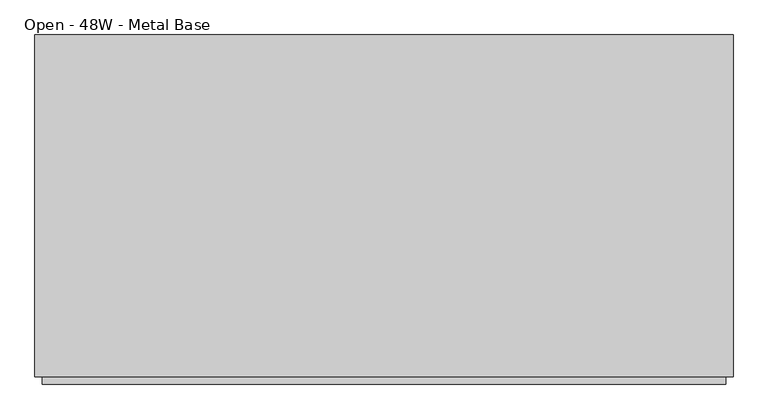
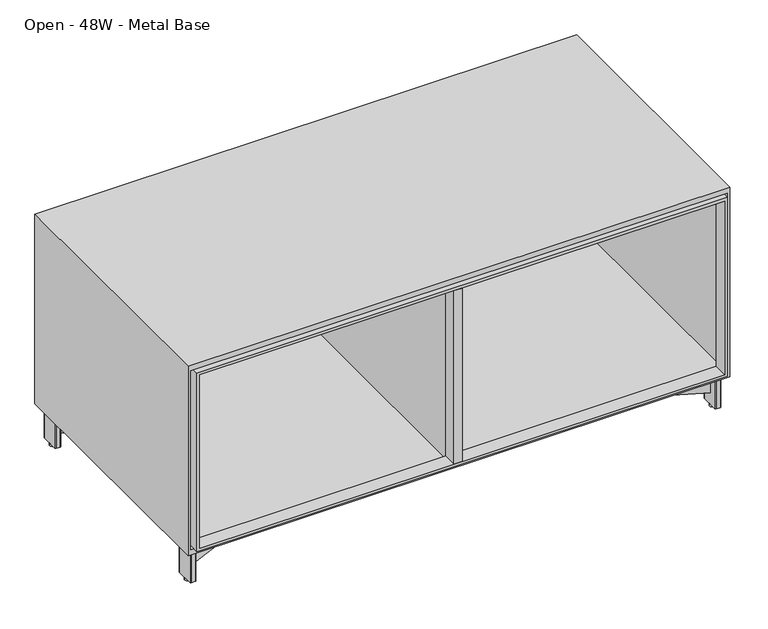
"""IFC4 building model written with IfcOpenShell, lengths in millimetres: furniture geometry, Steelcase Coalesse - Exponents - Storage - Credenza - 21H : Open - 48W - Metal Base."""

from ifc_helpers import new_model, si_unit, point, frame, frame_2d, origin, origin_with_axes, place, context, project, spatial, polyline, circle_curve, trimmed, segment, composite_curve, outline, extrude, faceted_brep, source, transform, mapped, element, save


def open_48w_metal_base_6e8538a0(model_context):
    return source(origin(), model_context, "Body", "SolidModel", [
        faceted_brep([(6.35, 31.75, 520.7), (6.35, 31.75, 95.25), (6.35, 622.3, 95.25), (6.35, 622.3, 520.7), (1212.85, 622.3, 95.25), (1212.85, 622.3, 520.7), (1212.85, 31.75, 95.25), (1212.85, 31.75, 520.7), (0.0, 31.75, 82.55), (1219.2, 31.75, 82.55), (1219.2, 31.75, 533.4), (0.0, 31.75, 533.4), (1219.2, 628.65, 82.55), (1219.2, 628.65, 533.4), (0.0, 628.65, 82.55), (0.0, 628.65, 533.4)], [[[0, 1, 2, 3]], [[3, 2, 4, 5]], [[5, 4, 6, 7]], [[8, 9, 10, 11], [7, 6, 1, 0]], [[10, 9, 12, 13]], [[13, 12, 14, 15]], [[15, 14, 8, 11]], [[7, 0, 3, 5]], [[10, 13, 15, 11]], [[1, 6, 4, 2]], [[12, 9, 8, 14]]]),
        extrude(outline(composite_curve([segment(polyline([(1195.5506426, 615.95), (1204.722, 615.95)]), True, "CONTINUOUS"), segment(trimmed(circle_curve(frame_2d((1204.722, 614.172)), 1.778), [point((1204.722, 615.95))], [point((1206.5, 614.172))], False, "CARTESIAN"), True, "CONTINUOUS"), segment(polyline([(1206.5, 614.172), (1206.5, 572.9986)]), True, "CONTINUOUS"), segment(trimmed(circle_curve(frame_2d((1204.722, 572.9986)), 1.778), [point((1206.5, 572.9986))], [point((1204.722, 571.2206))], False, "CARTESIAN"), True, "CONTINUOUS"), segment(polyline([(1204.722, 571.2206), (1195.5948916, 571.2206)]), True, "CONTINUOUS"), segment(trimmed(circle_curve(frame_2d((1195.5948916, 573.0154916)), 1.7948916), [point((1195.5948916, 571.2206))], [point((1193.8, 573.0154916))], False, "CARTESIAN"), True, "CONTINUOUS"), segment(polyline([(1193.8, 573.0154916), (1193.8, 614.1993574)]), True, "CONTINUOUS"), segment(trimmed(circle_curve(frame_2d((1195.5506426, 614.1993574)), 1.7506426), [point((1193.8, 614.1993574))], [point((1195.5506426, 615.95))], False, "CARTESIAN"), True, "CONTINUOUS")], self_intersect=False)), frame((0.0, 0.0, 6.35), z_axis=(0.0, 0.0, 1.0), x_axis=(1.0, 0.0, 0.0)), (0.0, 0.0, 1.0), 73.4568),
        extrude(outline(composite_curve([segment(polyline([(1195.5506426, 88.9), (1204.722, 88.9)]), True, "CONTINUOUS"), segment(trimmed(circle_curve(frame_2d((1204.722, 87.122)), 1.778), [point((1204.722, 88.9))], [point((1206.5, 87.122))], False, "CARTESIAN"), True, "CONTINUOUS"), segment(polyline([(1206.5, 87.122), (1206.5, 45.9486)]), True, "CONTINUOUS"), segment(trimmed(circle_curve(frame_2d((1204.722, 45.9486)), 1.778), [point((1206.5, 45.9486))], [point((1204.722, 44.1706))], False, "CARTESIAN"), True, "CONTINUOUS"), segment(polyline([(1204.722, 44.1706), (1195.5948916, 44.1706)]), True, "CONTINUOUS"), segment(trimmed(circle_curve(frame_2d((1195.5948916, 45.9654916)), 1.7948916), [point((1195.5948916, 44.1706))], [point((1193.8, 45.9654916))], False, "CARTESIAN"), True, "CONTINUOUS"), segment(polyline([(1193.8, 45.9654916), (1193.8, 87.1493574)]), True, "CONTINUOUS"), segment(trimmed(circle_curve(frame_2d((1195.5506426, 87.1493574)), 1.7506426), [point((1193.8, 87.1493574))], [point((1195.5506426, 88.9))], False, "CARTESIAN"), True, "CONTINUOUS")], self_intersect=False)), frame((0.0, 0.0, 6.35), z_axis=(0.0, 0.0, 1.0), x_axis=(1.0, 0.0, 0.0)), (0.0, 0.0, 1.0), 73.4568),
        extrude(outline(composite_curve([segment(trimmed(circle_curve(frame_2d((1200.15, 593.5667033)), 6.35), [point((1200.15, 599.9167033))], [point((1200.15, 587.2167033))], False, "CARTESIAN"), True, "CONTINUOUS"), segment(trimmed(circle_curve(frame_2d((1200.15, 593.5667033)), 6.35), [point((1200.15, 587.2167033))], [point((1200.15, 599.9167033))], False, "CARTESIAN"), True, "CONTINUOUS")], self_intersect=False)), origin_with_axes(), (0.0, 0.0, 1.0), 6.35),
        extrude(outline(composite_curve([segment(trimmed(circle_curve(frame_2d((1200.15, 66.7867854)), 6.35), [point((1200.15, 73.1367854))], [point((1200.15, 60.4367854))], False, "CARTESIAN"), True, "CONTINUOUS"), segment(trimmed(circle_curve(frame_2d((1200.15, 66.7867854)), 6.35), [point((1200.15, 60.4367854))], [point((1200.15, 73.1367854))], False, "CARTESIAN"), True, "CONTINUOUS")], self_intersect=False)), origin_with_axes(), (0.0, 0.0, 1.0), 6.35),
        extrude(outline(polyline([(520.7, 1206.5), (520.7, 12.7), (95.25, 12.7), (95.25, 1206.5), (520.7, 1206.5)]), holes=[polyline([(514.35, 1200.15), (101.6, 1200.15), (101.6, 19.05), (514.35, 19.05), (514.35, 1200.15)])]), frame((0.0, 19.05, 0.0), z_axis=(0.0, 1.0, 0.0), x_axis=(0.0, 0.0, 1.0)), (0.0, 0.0, 1.0), 31.75),
        extrude(outline(polyline([(610.8800308, 345.280854), (1193.8, 598.591626), (1193.8, 577.8206777), (623.9741031, 330.2), (1193.8, 82.5793223), (1193.8, 61.808374), (611.177267, 314.9899805), (617.6101738, 329.7934165), (610.8800308, 345.280854)])), frame((0.0, 0.0, 34.925), z_axis=(0.0, 0.0, 1.0), x_axis=(1.0, 0.0, 0.0)), (0.0, 0.0, 1.0), 44.8818),
        extrude(outline(polyline([(1212.85, 520.7), (1111.25, 520.7), (1111.25, 622.3), (1212.85, 622.3), (1212.85, 520.7)])), frame((0.0, 0.0, 79.8068), z_axis=(0.0, 0.0, 1.0), x_axis=(1.0, 0.0, 0.0)), (0.0, 0.0, 1.0), 2.7432),
        extrude(outline(polyline([(1212.85, 139.7), (1212.85, 38.1), (1111.25, 38.1), (1111.25, 139.7), (1212.85, 139.7)])), frame((0.0, 0.0, 79.8068), z_axis=(0.0, 0.0, 1.0), x_axis=(1.0, 0.0, 0.0)), (0.0, 0.0, 1.0), 2.7432),
        extrude(outline(composite_curve([segment(trimmed(circle_curve(frame_2d((23.6493574, 614.1993574)), 1.7506426), [point((23.6493574, 615.95))], [point((25.4, 614.1993574))], False, "CARTESIAN"), True, "CONTINUOUS"), segment(polyline([(25.4, 614.1993574), (25.4, 573.0154916)]), True, "CONTINUOUS"), segment(trimmed(circle_curve(frame_2d((23.6051084, 573.0154916)), 1.7948916), [point((25.4, 573.0154916))], [point((23.6051084, 571.2206))], False, "CARTESIAN"), True, "CONTINUOUS"), segment(polyline([(23.6051084, 571.2206), (14.478, 571.2206)]), True, "CONTINUOUS"), segment(trimmed(circle_curve(frame_2d((14.478, 572.9986)), 1.778), [point((14.478, 571.2206))], [point((12.7, 572.9986))], False, "CARTESIAN"), True, "CONTINUOUS"), segment(polyline([(12.7, 572.9986), (12.7, 614.172)]), True, "CONTINUOUS"), segment(trimmed(circle_curve(frame_2d((14.478, 614.172)), 1.778), [point((12.7, 614.172))], [point((14.478, 615.95))], False, "CARTESIAN"), True, "CONTINUOUS"), segment(polyline([(14.478, 615.95), (23.6493574, 615.95)]), True, "CONTINUOUS")], self_intersect=False)), frame((0.0, 0.0, 6.35), z_axis=(0.0, 0.0, 1.0), x_axis=(1.0, 0.0, 0.0)), (0.0, 0.0, 1.0), 73.4568),
        extrude(outline(composite_curve([segment(trimmed(circle_curve(frame_2d((23.6493574, 87.1493574)), 1.7506426), [point((23.6493574, 88.9))], [point((25.4, 87.1493574))], False, "CARTESIAN"), True, "CONTINUOUS"), segment(polyline([(25.4, 87.1493574), (25.4, 45.9654916)]), True, "CONTINUOUS"), segment(trimmed(circle_curve(frame_2d((23.6051084, 45.9654916)), 1.7948916), [point((25.4, 45.9654916))], [point((23.6051084, 44.1706))], False, "CARTESIAN"), True, "CONTINUOUS"), segment(polyline([(23.6051084, 44.1706), (14.478, 44.1706)]), True, "CONTINUOUS"), segment(trimmed(circle_curve(frame_2d((14.478, 45.9486)), 1.778), [point((14.478, 44.1706))], [point((12.7, 45.9486))], False, "CARTESIAN"), True, "CONTINUOUS"), segment(polyline([(12.7, 45.9486), (12.7, 87.122)]), True, "CONTINUOUS"), segment(trimmed(circle_curve(frame_2d((14.478, 87.122)), 1.778), [point((12.7, 87.122))], [point((14.478, 88.9))], False, "CARTESIAN"), True, "CONTINUOUS"), segment(polyline([(14.478, 88.9), (23.6493574, 88.9)]), True, "CONTINUOUS")], self_intersect=False)), frame((0.0, 0.0, 6.35), z_axis=(0.0, 0.0, 1.0), x_axis=(1.0, 0.0, 0.0)), (0.0, 0.0, 1.0), 73.4568),
        extrude(outline(composite_curve([segment(trimmed(circle_curve(frame_2d((617.3743574, 347.4993574)), 1.7506426), [point((617.3743574, 349.25))], [point((619.125, 347.4993574))], False, "CARTESIAN"), True, "CONTINUOUS"), segment(polyline([(619.125, 347.4993574), (619.125, 312.9448916)]), True, "CONTINUOUS"), segment(trimmed(circle_curve(frame_2d((617.3301084, 312.9448916)), 1.7948916), [point((619.125, 312.9448916))], [point((617.3301084, 311.15))], False, "CARTESIAN"), True, "CONTINUOUS"), segment(polyline([(617.3301084, 311.15), (601.853, 311.15)]), True, "CONTINUOUS"), segment(trimmed(circle_curve(frame_2d((601.853, 312.928)), 1.778), [point((601.853, 311.15))], [point((600.075, 312.928))], False, "CARTESIAN"), True, "CONTINUOUS"), segment(polyline([(600.075, 312.928), (600.075, 347.472)]), True, "CONTINUOUS"), segment(trimmed(circle_curve(frame_2d((601.853, 347.472)), 1.778), [point((600.075, 347.472))], [point((601.853, 349.25))], False, "CARTESIAN"), True, "CONTINUOUS"), segment(polyline([(601.853, 349.25), (617.3743574, 349.25)]), True, "CONTINUOUS")], self_intersect=False)), frame((0.0, 0.0, 6.35), z_axis=(0.0, 0.0, 1.0), x_axis=(1.0, 0.0, 0.0)), (0.0, 0.0, 1.0), 73.4568),
        extrude(outline(polyline([(608.3199692, 345.280854), (601.5898262, 329.7934165), (608.022733, 314.9899805), (25.4, 61.808374), (25.4, 82.5793223), (595.2258969, 330.2), (25.4, 577.8206777), (25.4, 598.591626), (608.3199692, 345.280854)])), frame((0.0, 0.0, 34.925), z_axis=(0.0, 0.0, 1.0), x_axis=(1.0, 0.0, 0.0)), (0.0, 0.0, 1.0), 44.8818),
        extrude(outline(polyline([(6.35, 520.7), (6.35, 622.3), (107.95, 622.3), (107.95, 520.7), (6.35, 520.7)])), frame((0.0, 0.0, 79.8068), z_axis=(0.0, 0.0, 1.0), x_axis=(1.0, 0.0, 0.0)), (0.0, 0.0, 1.0), 2.7432),
        extrude(outline(polyline([(6.35, 139.7), (107.95, 139.7), (107.95, 38.1), (6.35, 38.1), (6.35, 139.7)])), frame((0.0, 0.0, 79.8068), z_axis=(0.0, 0.0, 1.0), x_axis=(1.0, 0.0, 0.0)), (0.0, 0.0, 1.0), 2.7432),
        extrude(outline(polyline([(558.8, 379.0696809), (660.4, 379.0696809), (660.4, 277.4696809), (558.8, 277.4696809), (558.8, 379.0696809)])), frame((0.0, 0.0, 79.8068), z_axis=(0.0, 0.0, 1.0), x_axis=(1.0, 0.0, 0.0)), (0.0, 0.0, 1.0), 2.7432),
        extrude(outline(composite_curve([segment(trimmed(circle_curve(frame_2d((19.05, 593.5667033)), 6.35), [point((12.7, 593.5667033))], [point((25.4, 593.5667033))], False, "CARTESIAN"), True, "CONTINUOUS"), segment(trimmed(circle_curve(frame_2d((19.05, 593.5667033)), 6.35), [point((25.4, 593.5667033))], [point((12.7, 593.5667033))], False, "CARTESIAN"), True, "CONTINUOUS")], self_intersect=False)), origin_with_axes(), (0.0, 0.0, 1.0), 6.35),
        extrude(outline(composite_curve([segment(trimmed(circle_curve(frame_2d((19.05, 66.7867854)), 6.35), [point((12.7, 66.7867854))], [point((25.4, 66.7867854))], False, "CARTESIAN"), True, "CONTINUOUS"), segment(trimmed(circle_curve(frame_2d((19.05, 66.7867854)), 6.35), [point((25.4, 66.7867854))], [point((12.7, 66.7867854))], False, "CARTESIAN"), True, "CONTINUOUS")], self_intersect=False)), origin_with_axes(), (0.0, 0.0, 1.0), 6.35),
        extrude(outline(composite_curve([segment(trimmed(circle_curve(frame_2d((609.7749308, 330.5590189)), 6.35), [point((603.4249308, 330.5590189))], [point((616.1249308, 330.5590189))], False, "CARTESIAN"), True, "CONTINUOUS"), segment(trimmed(circle_curve(frame_2d((609.7749308, 330.5590189)), 6.35), [point((616.1249308, 330.5590189))], [point((603.4249308, 330.5590189))], False, "CARTESIAN"), True, "CONTINUOUS")], self_intersect=False)), origin_with_axes(), (0.0, 0.0, 1.0), 6.35),
        extrude(outline(polyline([(0.0, -19.05), (0.0, 0.0), (31.75, 0.0), (31.75, -19.05), (0.0, -19.05)])), frame((590.55, 19.05, 101.6), z_axis=(3.3608671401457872e-12, 0.0, 1.0), x_axis=(0.0, 1.0, 0.0)), (0.0, 0.0, 1.0), 412.75),
        extrude(outline(polyline([(590.55, 609.6), (609.6, 609.6), (609.6, 50.8), (590.55, 50.8), (590.55, 609.6)])), frame((0.0, 0.0, 95.25), z_axis=(0.0, 0.0, 1.0), x_axis=(1.0, 0.0, 0.0)), (0.0, 0.0, 1.0), 425.45),
    ])


if __name__ == "__main__":
    model = new_model("IFC4")
    model_context = context("Model", 3, world=origin())
    ifc_project = project(units=[si_unit("LENGTHUNIT", "METRE", prefix="MILLI")], contexts=[model_context])
    site = spatial("IfcSite", under=ifc_project)
    building = spatial("IfcBuilding", under=site)
    placement = place(None, origin())
    open_48w_metal_base_shape = open_48w_metal_base_6e8538a0(model_context)
    element("IfcFurniture", 1, ObjectType="Steelcase Coalesse - Exponents - Storage - Credenza - 21H : Open - 48W - Metal Base", at=placement, inside=building, context=model_context, shape_type="MappedRepresentation", body=[
        mapped(open_48w_metal_base_shape, transform((0.0, 0.0, 0.0), x_axis=(1.0, 0.0, 0.0), y_axis=(0.0, 1.0, 0.0), z_axis=(0.0, 0.0, 1.0))),
    ])
    save(model, "model.ifc")
